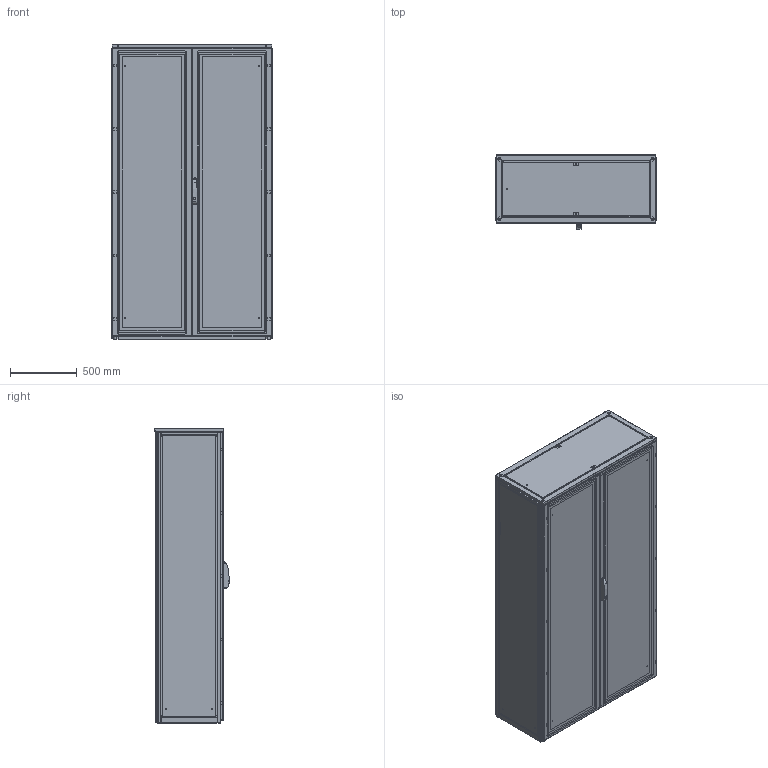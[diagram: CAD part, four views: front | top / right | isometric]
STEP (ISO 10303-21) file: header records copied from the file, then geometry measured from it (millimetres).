
FILE_DESCRIPTION(/* description */ ('STEP AP214'),/* implementation_level */ '2;1');
FILE_NAME(/* name */ 'ENUX122205PR -LOD350',/* time_stamp */ '2025-10-06T09:53:23+02:00',/* author */ ('License CC BY-ND 4.0'),/* organization */ ('CADENAS'),/* preprocessor_version */ 'ST-DEVELOPER v19.3',/* originating_system */ 'PARTsolutions',/* authorisation */ ' ');
FILE_SCHEMA (('MODEL_BASED_INTEGRATED_MANUFACTURING_SCHEMA','AUTOMOTIVE_DESIGN {1 0 10303 214 3 1 1}'));
Length unit declared in the file: millimetre
Products named in the file (11): ENUX122205PR  -LOD350; ENUX122205PR  -LOD3501; ENUX122205PR  -LOD3507; ENUX122205PR  -LOD3502; ENUX122205PR  -LOD35011; ENUX122205PR  -LOD3503; ENUX122205PR  -LOD3508; ENUX122205PR  -LOD3505; ENUX122205PR  -LOD3504; ENUX122205PR  -LOD35010; ENUX122205PR  -LOD3509
Assembly tree (17 placements, depth 2):
  ENUX122205PR  -LOD350
    ENUX122205PR  -LOD3501
    ENUX122205PR  -LOD3507  x2
    ENUX122205PR  -LOD3502
    ENUX122205PR  -LOD35011
    ENUX122205PR  -LOD3503
    ENUX122205PR  -LOD3508
    ENUX122205PR  -LOD3505
    ENUX122205PR  -LOD3504
    ENUX122205PR  -LOD35010  x4
    ENUX122205PR  -LOD3509  x4
Bounding box: 1212 x 557 x 2208.5 mm (x, y, z)
Volume: 30411846.8 mm3; surface area: 25702666.8 mm2
Topology: 17 solids, 24 shells, 1532 faces, 4123 edges, 2696 vertices
Faces by surface type: plane 922, cylinder 560, torus 30, cone 12, sphere 8
Full cylindrical faces by diameter (mm): 6 x15, 9 x13, 12 x4, 14 x2, 17 x2, 28 x2
Entity records: 37006 total; most frequent: CARTESIAN_POINT 6769, DIRECTION 6283, ORIENTED_EDGE 6190, EDGE_CURVE 3095, LINE 2097, VECTOR 2097, AXIS2_PLACEMENT_3D 2093, VERTEX_POINT 2046
